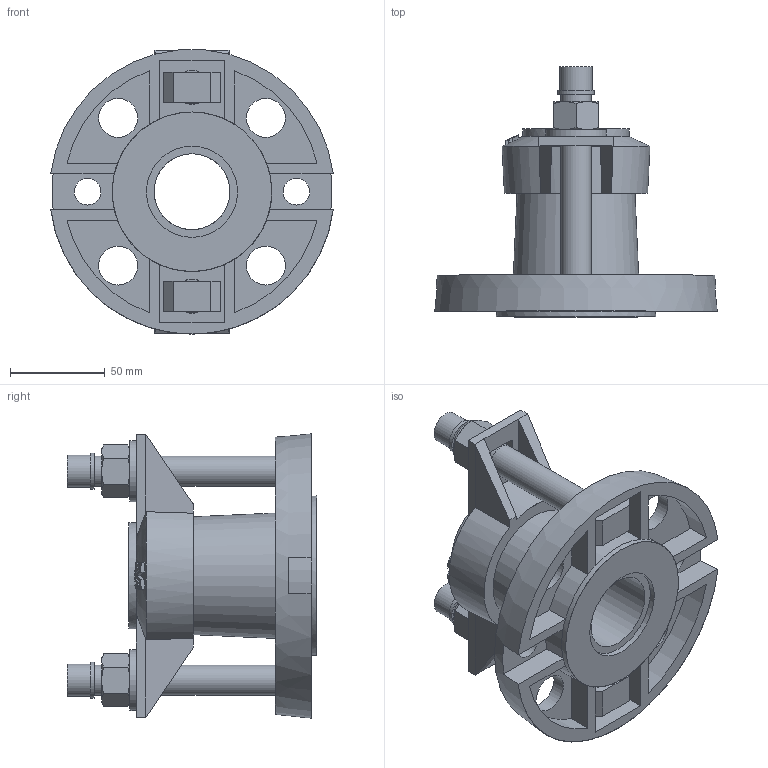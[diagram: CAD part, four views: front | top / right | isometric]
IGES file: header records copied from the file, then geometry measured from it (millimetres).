
Start section: SolidWorks IGES file using analytic representation for surfaces
Global section: file name: \\avksan2\techshare\PBM outline export from Enovia\O_623_10_DN040-40mm_X1XXXXX_REV01.igs; native system: SolidWorks 2019; preprocessor: SolidWorks 2019; author: pbm; date: 200417.101602; units: millimetre
Bounding box: 148.79 x 131.5 x 149.73 mm (x, y, z)
Surface area: 110380.2 mm2 (no closed solid volume)
Topology: 0 solids, 0 shells, 233 faces, 1132 edges, 1100 vertices
Faces by surface type: bspline 145, revolution 88
